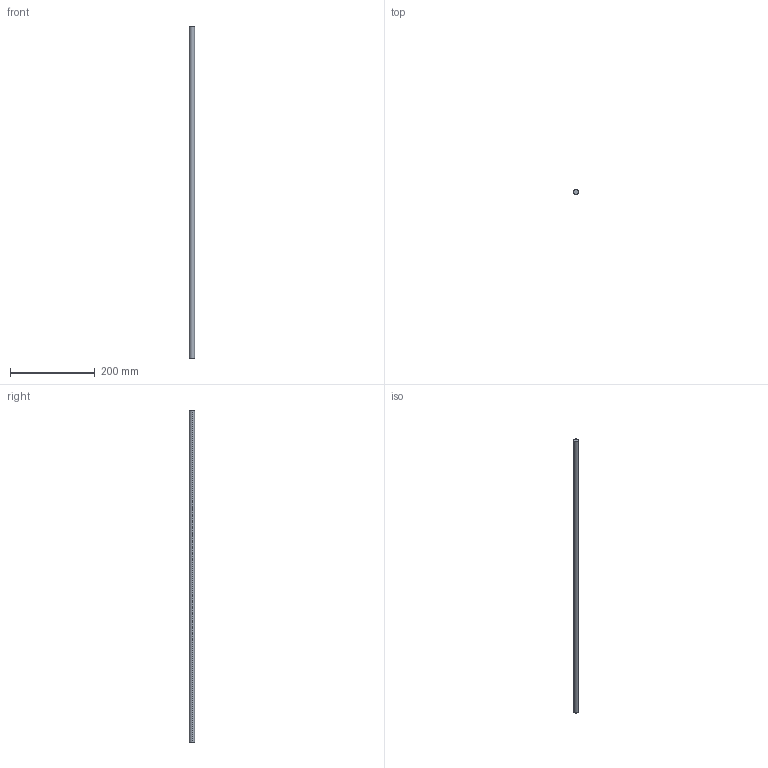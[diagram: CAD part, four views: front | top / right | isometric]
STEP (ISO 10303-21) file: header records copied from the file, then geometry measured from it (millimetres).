
FILE_DESCRIPTION (( 'STEP AP214' ), '1' );
FILE_NAME ('Innenschub H182 - S18_S19 - 900.step', '2010-09-07T14:56:04', ( 'grass' ), ( '' ), 'SwSTEP 2.0', 'SolidWorks 2010', '' );
FILE_SCHEMA (( 'AUTOMOTIVE_DESIGN' ));
Length unit declared in the file: millimetre
Products named in the file (1): Innenschub H182 - S18_S19 - 900
Bounding box: 12 x 12 x 783 mm (x, y, z)
Volume: 88555.2 mm3; surface area: 29744.6 mm2
Topology: 1 solids, 1 shells, 4 faces, 6 edges, 4 vertices
Faces by surface type: cylinder 2, plane 2
Entity records: 128 total; most frequent: DIRECTION 20, CARTESIAN_POINT 15, ORIENTED_EDGE 12, AXIS2_PLACEMENT_3D 9, EDGE_CURVE 6, VERTEX_POINT 4, FACE_OUTER_BOUND 4, EDGE_LOOP 4
